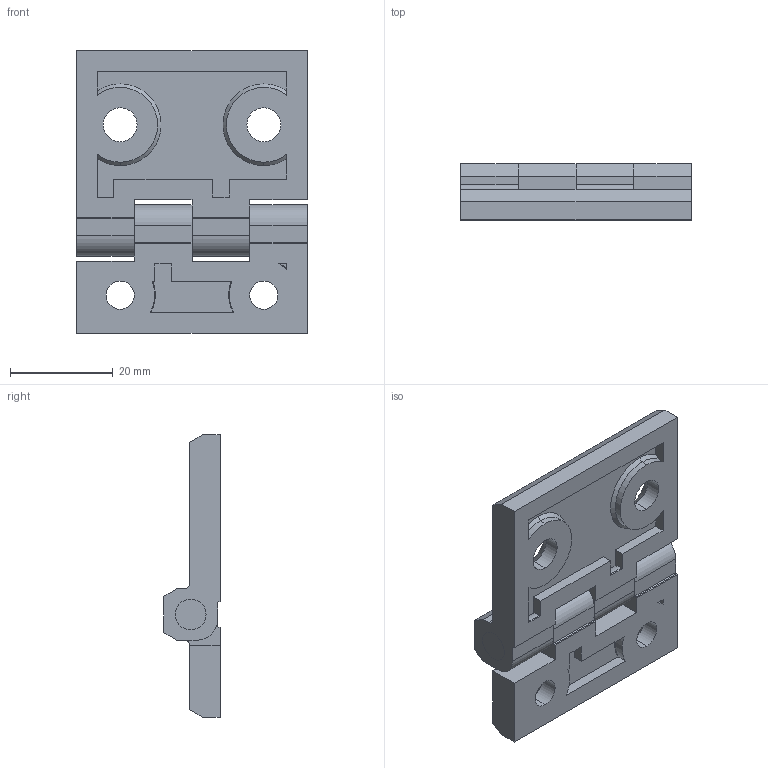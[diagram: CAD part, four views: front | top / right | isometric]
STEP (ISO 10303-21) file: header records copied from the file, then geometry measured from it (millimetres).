
FILE_DESCRIPTION (( 'STEP AP203' ), '1' );
FILE_NAME ('B01-2540.STEP', '2016-11-15T09:29:35', ( '' ), ( '' ), 'SwSTEP 2.0', 'SolidWorks 2013', '' );
FILE_SCHEMA (( 'CONFIG_CONTROL_DESIGN' ));
Length unit declared in the file: millimetre
Products named in the file (4): B01-2540; B01-軸心; B01-25; B01-40
Assembly tree (3 placements, depth 2):
  B01-2540
    B01-25
    B01-40
    B01-軸心
Bounding box: 45 x 11 x 55 mm (x, y, z)
Volume: 13894.3 mm3; surface area: 9549.8 mm2
Topology: 3 solids, 3 shells, 135 faces, 360 edges, 234 vertices
Faces by surface type: plane 75, cylinder 43, cone 17
Entity records: 4653 total; most frequent: CARTESIAN_POINT 772, DIRECTION 733, ORIENTED_EDGE 720, EDGE_CURVE 360, VECTOR 247, LINE 247, AXIS2_PLACEMENT_3D 243, VERTEX_POINT 234
